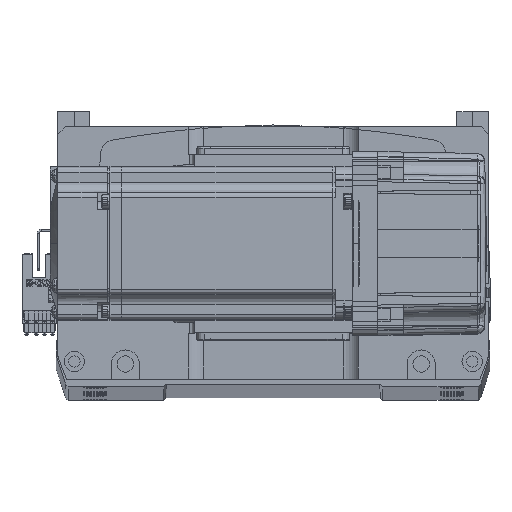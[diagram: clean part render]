
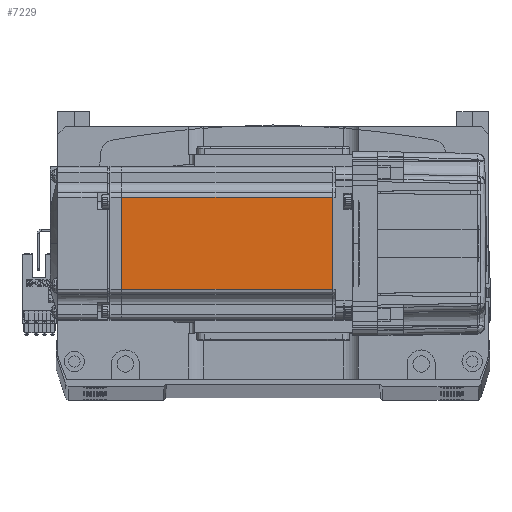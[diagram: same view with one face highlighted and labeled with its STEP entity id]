
A CAD part, top view. The second image highlights one B-rep face of the part: STEP entity #7229.
In plain terms, the highlighted planar face has unit normal (0, 0, 1).
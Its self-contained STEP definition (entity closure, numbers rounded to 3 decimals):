
#2519 = CARTESIAN_POINT ( 'NONE',  ( -7.75, 18., 30. ) ) ;
#3562 = EDGE_CURVE ( 'NONE', #26627, #50047, #12796, .T. ) ;
#5308 = DIRECTION ( 'NONE',  ( 0., -1., 0. ) ) ;
#7229 = ADVANCED_FACE ( 'NONE', ( #29295 ), #34939, .T. ) ;
#8476 = CARTESIAN_POINT ( 'NONE',  ( -7.75, -18., 30. ) ) ;
#10065 = EDGE_LOOP ( 'NONE', ( #25132, #20528, #30464, #50508 ) ) ;
#11706 = VECTOR ( 'NONE', #26385, 1000. ) ;
#12796 = LINE ( 'NONE', #32510, #25634 ) ;
#17352 = VERTEX_POINT ( 'NONE', #52500 ) ;
#20528 = ORIENTED_EDGE ( 'NONE', *, *, #54505, .T. ) ;
#21122 = CARTESIAN_POINT ( 'NONE',  ( -6.5, -18., 30. ) ) ;
#25132 = ORIENTED_EDGE ( 'NONE', *, *, #3562, .F. ) ;
#25634 = VECTOR ( 'NONE', #26555, 1000. ) ;
#26268 = LINE ( 'NONE', #21122, #11706 ) ;
#26366 = VECTOR ( 'NONE', #35422, 1000. ) ;
#26385 = DIRECTION ( 'NONE',  ( -1., 0., 0. ) ) ;
#26555 = DIRECTION ( 'NONE',  ( 0., -1., 0. ) ) ;
#26627 = VERTEX_POINT ( 'NONE', #2519 ) ;
#29295 = FACE_OUTER_BOUND ( 'NONE', #10065, .T. ) ;
#30101 = EDGE_CURVE ( 'NONE', #50047, #17352, #26268, .T. ) ;
#30464 = ORIENTED_EDGE ( 'NONE', *, *, #51809, .T. ) ;
#32510 = CARTESIAN_POINT ( 'NONE',  ( -7.75, 0., 30. ) ) ;
#32736 = VERTEX_POINT ( 'NONE', #61940 ) ;
#34446 = VECTOR ( 'NONE', #5308, 1000. ) ;
#34939 = PLANE ( 'NONE',  #39882 ) ;
#35422 = DIRECTION ( 'NONE',  ( -1., 0., 0. ) ) ;
#36387 = CARTESIAN_POINT ( 'NONE',  ( -6.5, 18., 30. ) ) ;
#39882 = AXIS2_PLACEMENT_3D ( 'NONE', #45783, #40263, #40486 ) ;
#40263 = DIRECTION ( 'NONE',  ( 0., 0., 1. ) ) ;
#40486 = DIRECTION ( 'NONE',  ( 1., 0., 0. ) ) ;
#43687 = CARTESIAN_POINT ( 'NONE',  ( -90.45, 0., 30. ) ) ;
#45783 = CARTESIAN_POINT ( 'NONE',  ( -6.5, -25., 30. ) ) ;
#49142 = LINE ( 'NONE', #43687, #34446 ) ;
#50047 = VERTEX_POINT ( 'NONE', #8476 ) ;
#50508 = ORIENTED_EDGE ( 'NONE', *, *, #30101, .F. ) ;
#51809 = EDGE_CURVE ( 'NONE', #32736, #17352, #49142, .T. ) ;
#52500 = CARTESIAN_POINT ( 'NONE',  ( -90.45, -18., 30. ) ) ;
#54505 = EDGE_CURVE ( 'NONE', #26627, #32736, #69969, .T. ) ;
#61940 = CARTESIAN_POINT ( 'NONE',  ( -90.45, 18., 30. ) ) ;
#69969 = LINE ( 'NONE', #36387, #26366 ) ;
